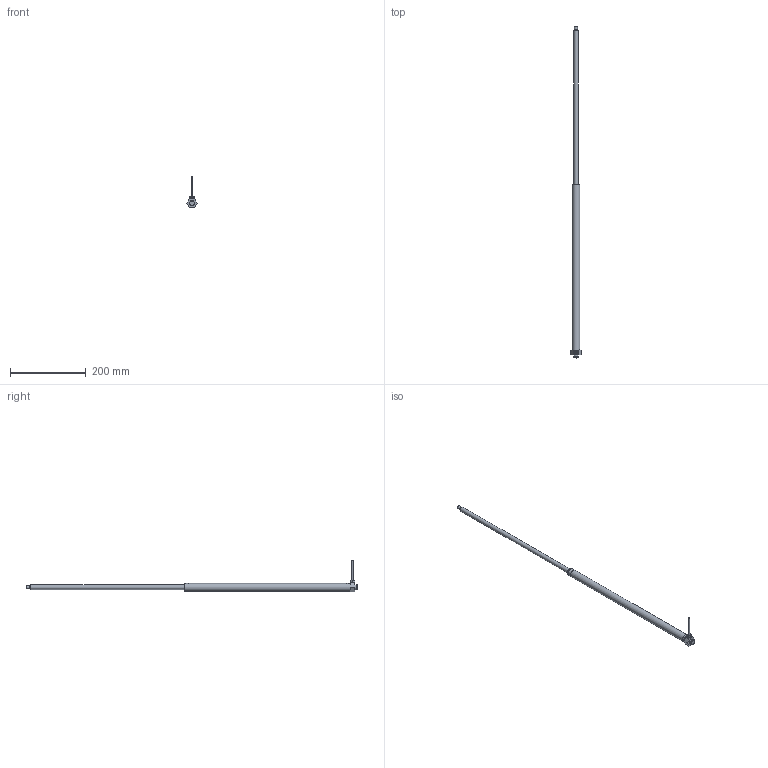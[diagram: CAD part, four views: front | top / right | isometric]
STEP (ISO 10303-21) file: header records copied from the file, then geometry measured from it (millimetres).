
FILE_DESCRIPTION(/* description */ ('Unknown'),/* implementation_level */ '2;1');
FILE_NAME(/* name */ '109.50144 Zylinder CH 1840_ausgefahren',/* time_stamp */ '2018-04-27T09:06:34+02:00',/* author */ ('Unknown'),/* organization */ ('Unknown'),/* preprocessor_version */ 'ST-DEVELOPER v16.7',/* originating_system */ 'DEX',/* authorisation */ $);
FILE_SCHEMA (('AUTOMOTIVE_DESIGN {1 0 10303 214 3 1 1}'));
Length unit declared in the file: millimetre
Products named in the file (9): 109.50144; 121.50004; 142.00021; 125.00021; 115.00008_oa_0; 125.00063; 120.00024; 122.00012; 113.00002_70mm
Assembly tree (8 placements, depth 2):
  109.50144
    121.50004
    142.00021
    125.00021
    115.00008_oa_0
    125.00063
    120.00024
    122.00012
    113.00002_70mm
Bounding box: 27.71 x 878 x 83.5 mm (x, y, z)
Volume: 86246.2 mm3; surface area: 76025.2 mm2
Topology: 7 solids, 7 shells, 99 faces, 201 edges, 126 vertices
Faces by surface type: plane 38, cylinder 29, cone 25, torus 6, sphere 1
Full cylindrical faces by diameter (mm): 2.2 x1, 3 x1, 3.5 x1, 4 x1, 4.1 x1, 4.2 x1, 6 x1, 6.917 x2, 7.763 x2, 8 x4, 8.1 x3, 12 x2, 12.5 x1, 13 x2, 14.4 x1, 17.9 x2, 18 x2, 20 x1
Entity records: 3012 total; most frequent: DIRECTION 418, CARTESIAN_POINT 415, ORIENTED_EDGE 268, AXIS2_PLACEMENT_3D 190, FACE_BOUND 176, EDGE_LOOP 174, EDGE_CURVE 134, VERTEX_POINT 116
